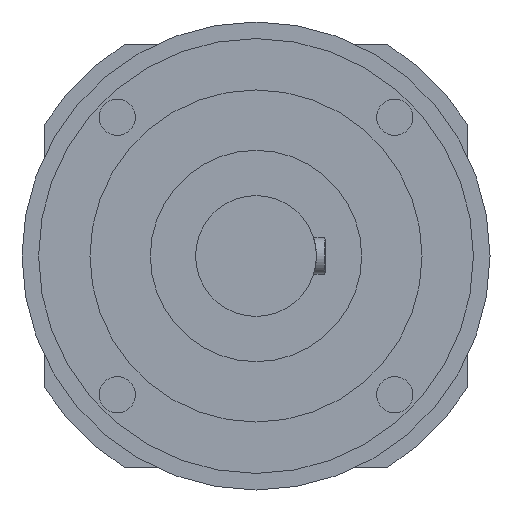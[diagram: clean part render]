
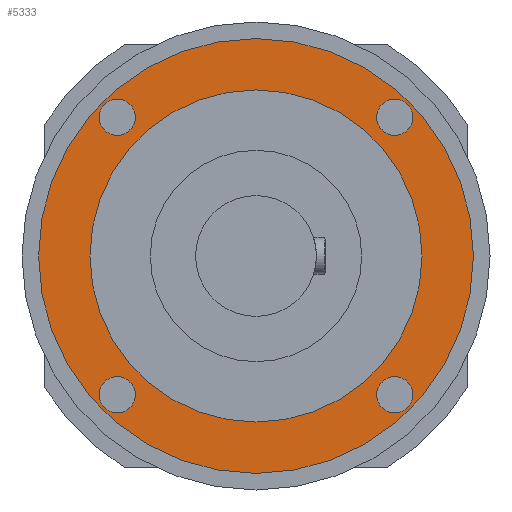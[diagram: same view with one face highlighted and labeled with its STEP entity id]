
A CAD part, left-side view. The second image highlights one B-rep face of the part: STEP entity #5333.
In plain terms, the highlighted planar face has unit normal (-1, 0, 0).
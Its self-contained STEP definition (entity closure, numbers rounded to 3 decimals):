
#13 = CARTESIAN_POINT ( 'NONE',  ( -130., -45.962, -39.962 ) ) ;
#123 = EDGE_CURVE ( 'NONE', #3851, #139, #3929, .T. ) ;
#139 = VERTEX_POINT ( 'NONE', #212 ) ;
#183 = FACE_BOUND ( 'NONE', #535, .T. ) ;
#212 = CARTESIAN_POINT ( 'NONE',  ( -130., -45.962, -51.962 ) ) ;
#216 = EDGE_CURVE ( 'NONE', #1713, #2311, #3652, .T. ) ;
#287 = CIRCLE ( 'NONE', #1650, 55. ) ;
#451 = AXIS2_PLACEMENT_3D ( 'NONE', #3436, #1703, #790 ) ;
#535 = EDGE_LOOP ( 'NONE', ( #5045, #719 ) ) ;
#659 = DIRECTION ( 'NONE',  ( 1., 0., 0. ) ) ;
#699 = CARTESIAN_POINT ( 'NONE',  ( -130., 0., 0. ) ) ;
#719 = ORIENTED_EDGE ( 'NONE', *, *, #2307, .T. ) ;
#748 = CIRCLE ( 'NONE', #994, 6. ) ;
#790 = DIRECTION ( 'NONE',  ( 0., 0., -1. ) ) ;
#796 = CIRCLE ( 'NONE', #1520, 72. ) ;
#817 = CARTESIAN_POINT ( 'NONE',  ( -130., 0., -55. ) ) ;
#840 = CIRCLE ( 'NONE', #4407, 6. ) ;
#863 = DIRECTION ( 'NONE',  ( 0., 0., -1. ) ) ;
#867 = EDGE_CURVE ( 'NONE', #2311, #1713, #2887, .T. ) ;
#877 = CARTESIAN_POINT ( 'NONE',  ( -130., 0., 0. ) ) ;
#924 = ORIENTED_EDGE ( 'NONE', *, *, #2035, .T. ) ;
#986 = VERTEX_POINT ( 'NONE', #2906 ) ;
#994 = AXIS2_PLACEMENT_3D ( 'NONE', #3179, #4916, #3656 ) ;
#1165 = DIRECTION ( 'NONE',  ( 0., 0., 1. ) ) ;
#1191 = FACE_BOUND ( 'NONE', #4649, .T. ) ;
#1235 = DIRECTION ( 'NONE',  ( 1., 0., 0. ) ) ;
#1282 = EDGE_CURVE ( 'NONE', #2125, #1546, #796, .T. ) ;
#1322 = FACE_BOUND ( 'NONE', #2975, .T. ) ;
#1415 = EDGE_CURVE ( 'NONE', #5172, #1811, #3290, .T. ) ;
#1513 = CARTESIAN_POINT ( 'NONE',  ( -130., 0., 0. ) ) ;
#1520 = AXIS2_PLACEMENT_3D ( 'NONE', #1513, #2886, #3425 ) ;
#1538 = DIRECTION ( 'NONE',  ( 0., 0., -1. ) ) ;
#1546 = VERTEX_POINT ( 'NONE', #5029 ) ;
#1592 = DIRECTION ( 'NONE',  ( 0., 0., -1. ) ) ;
#1642 = CARTESIAN_POINT ( 'NONE',  ( -130., 0., 55. ) ) ;
#1650 = AXIS2_PLACEMENT_3D ( 'NONE', #699, #3470, #3908 ) ;
#1703 = DIRECTION ( 'NONE',  ( 1., 0., 0. ) ) ;
#1713 = VERTEX_POINT ( 'NONE', #3202 ) ;
#1734 = ORIENTED_EDGE ( 'NONE', *, *, #216, .T. ) ;
#1780 = EDGE_CURVE ( 'NONE', #986, #4125, #5047, .T. ) ;
#1811 = VERTEX_POINT ( 'NONE', #3268 ) ;
#1855 = DIRECTION ( 'NONE',  ( 0., 0., -1. ) ) ;
#2035 = EDGE_CURVE ( 'NONE', #4125, #986, #840, .T. ) ;
#2103 = DIRECTION ( 'NONE',  ( 0., 0., 1. ) ) ;
#2125 = VERTEX_POINT ( 'NONE', #5245 ) ;
#2136 = EDGE_LOOP ( 'NONE', ( #2642, #5540 ) ) ;
#2246 = EDGE_CURVE ( 'NONE', #1546, #2125, #4161, .T. ) ;
#2307 = EDGE_CURVE ( 'NONE', #1811, #5172, #4297, .T. ) ;
#2311 = VERTEX_POINT ( 'NONE', #2427 ) ;
#2323 = FACE_BOUND ( 'NONE', #4295, .T. ) ;
#2419 = VERTEX_POINT ( 'NONE', #1642 ) ;
#2427 = CARTESIAN_POINT ( 'NONE',  ( -130., 45.962, 39.962 ) ) ;
#2642 = ORIENTED_EDGE ( 'NONE', *, *, #2246, .F. ) ;
#2713 = CARTESIAN_POINT ( 'NONE',  ( -130., 45.962, -45.962 ) ) ;
#2811 = DIRECTION ( 'NONE',  ( 0., 0., -1. ) ) ;
#2886 = DIRECTION ( 'NONE',  ( 1., 0., 0. ) ) ;
#2887 = CIRCLE ( 'NONE', #3699, 6. ) ;
#2906 = CARTESIAN_POINT ( 'NONE',  ( -130., -45.962, 51.962 ) ) ;
#2975 = EDGE_LOOP ( 'NONE', ( #3082, #3763 ) ) ;
#2982 = PLANE ( 'NONE',  #3553 ) ;
#2990 = DIRECTION ( 'NONE',  ( 1., 0., 0. ) ) ;
#3072 = FACE_BOUND ( 'NONE', #3102, .T. ) ;
#3082 = ORIENTED_EDGE ( 'NONE', *, *, #3328, .T. ) ;
#3102 = EDGE_LOOP ( 'NONE', ( #924, #3646 ) ) ;
#3141 = AXIS2_PLACEMENT_3D ( 'NONE', #2713, #4886, #1855 ) ;
#3167 = EDGE_CURVE ( 'NONE', #3334, #2419, #287, .T. ) ;
#3179 = CARTESIAN_POINT ( 'NONE',  ( -130., -45.962, -45.962 ) ) ;
#3202 = CARTESIAN_POINT ( 'NONE',  ( -130., 45.962, 51.962 ) ) ;
#3228 = AXIS2_PLACEMENT_3D ( 'NONE', #4132, #4563, #1592 ) ;
#3268 = CARTESIAN_POINT ( 'NONE',  ( -130., 45.962, -39.962 ) ) ;
#3290 = CIRCLE ( 'NONE', #3141, 6. ) ;
#3328 = EDGE_CURVE ( 'NONE', #2419, #3334, #4605, .T. ) ;
#3334 = VERTEX_POINT ( 'NONE', #817 ) ;
#3357 = CARTESIAN_POINT ( 'NONE',  ( -130., 0., 0. ) ) ;
#3425 = DIRECTION ( 'NONE',  ( 0., 0., 1. ) ) ;
#3436 = CARTESIAN_POINT ( 'NONE',  ( -130., 45.962, -45.962 ) ) ;
#3470 = DIRECTION ( 'NONE',  ( 1., 0., 0. ) ) ;
#3553 = AXIS2_PLACEMENT_3D ( 'NONE', #877, #5601, #4329 ) ;
#3646 = ORIENTED_EDGE ( 'NONE', *, *, #1780, .T. ) ;
#3652 = CIRCLE ( 'NONE', #5223, 6. ) ;
#3656 = DIRECTION ( 'NONE',  ( 0., 0., -1. ) ) ;
#3699 = AXIS2_PLACEMENT_3D ( 'NONE', #4745, #1235, #5547 ) ;
#3763 = ORIENTED_EDGE ( 'NONE', *, *, #3167, .T. ) ;
#3795 = CARTESIAN_POINT ( 'NONE',  ( -130., 45.962, 45.962 ) ) ;
#3838 = CARTESIAN_POINT ( 'NONE',  ( -130., 0., 0. ) ) ;
#3851 = VERTEX_POINT ( 'NONE', #13 ) ;
#3908 = DIRECTION ( 'NONE',  ( 0., 0., 1. ) ) ;
#3920 = ORIENTED_EDGE ( 'NONE', *, *, #123, .T. ) ;
#3929 = CIRCLE ( 'NONE', #4395, 6. ) ;
#3952 = EDGE_CURVE ( 'NONE', #139, #3851, #748, .T. ) ;
#4003 = CARTESIAN_POINT ( 'NONE',  ( -130., -45.962, 39.962 ) ) ;
#4076 = CARTESIAN_POINT ( 'NONE',  ( -130., -45.962, -45.962 ) ) ;
#4125 = VERTEX_POINT ( 'NONE', #4003 ) ;
#4132 = CARTESIAN_POINT ( 'NONE',  ( -130., -45.962, 45.962 ) ) ;
#4141 = DIRECTION ( 'NONE',  ( 1., 0., 0. ) ) ;
#4161 = CIRCLE ( 'NONE', #4979, 72. ) ;
#4295 = EDGE_LOOP ( 'NONE', ( #4444, #3920 ) ) ;
#4297 = CIRCLE ( 'NONE', #451, 6. ) ;
#4329 = DIRECTION ( 'NONE',  ( 0., 0., 1. ) ) ;
#4395 = AXIS2_PLACEMENT_3D ( 'NONE', #4076, #659, #2811 ) ;
#4407 = AXIS2_PLACEMENT_3D ( 'NONE', #5589, #2990, #863 ) ;
#4444 = ORIENTED_EDGE ( 'NONE', *, *, #3952, .T. ) ;
#4563 = DIRECTION ( 'NONE',  ( 1., 0., 0. ) ) ;
#4605 = CIRCLE ( 'NONE', #5361, 55. ) ;
#4649 = EDGE_LOOP ( 'NONE', ( #5006, #1734 ) ) ;
#4710 = DIRECTION ( 'NONE',  ( 1., 0., 0. ) ) ;
#4745 = CARTESIAN_POINT ( 'NONE',  ( -130., 45.962, 45.962 ) ) ;
#4886 = DIRECTION ( 'NONE',  ( 1., 0., 0. ) ) ;
#4916 = DIRECTION ( 'NONE',  ( 1., 0., 0. ) ) ;
#4979 = AXIS2_PLACEMENT_3D ( 'NONE', #3357, #5455, #1165 ) ;
#5006 = ORIENTED_EDGE ( 'NONE', *, *, #867, .T. ) ;
#5029 = CARTESIAN_POINT ( 'NONE',  ( -130., 0., 72. ) ) ;
#5045 = ORIENTED_EDGE ( 'NONE', *, *, #1415, .T. ) ;
#5047 = CIRCLE ( 'NONE', #3228, 6. ) ;
#5122 = CARTESIAN_POINT ( 'NONE',  ( -130., 45.962, -51.962 ) ) ;
#5172 = VERTEX_POINT ( 'NONE', #5122 ) ;
#5223 = AXIS2_PLACEMENT_3D ( 'NONE', #3795, #4141, #1538 ) ;
#5245 = CARTESIAN_POINT ( 'NONE',  ( -130., 0., -72. ) ) ;
#5333 = ADVANCED_FACE ( 'NONE', ( #5389, #1322, #183, #2323, #3072, #1191 ), #2982, .T. ) ;
#5361 = AXIS2_PLACEMENT_3D ( 'NONE', #3838, #4710, #2103 ) ;
#5389 = FACE_OUTER_BOUND ( 'NONE', #2136, .T. ) ;
#5455 = DIRECTION ( 'NONE',  ( 1., 0., 0. ) ) ;
#5540 = ORIENTED_EDGE ( 'NONE', *, *, #1282, .F. ) ;
#5547 = DIRECTION ( 'NONE',  ( 0., 0., -1. ) ) ;
#5589 = CARTESIAN_POINT ( 'NONE',  ( -130., -45.962, 45.962 ) ) ;
#5601 = DIRECTION ( 'NONE',  ( -1., 0., 0. ) ) ;
